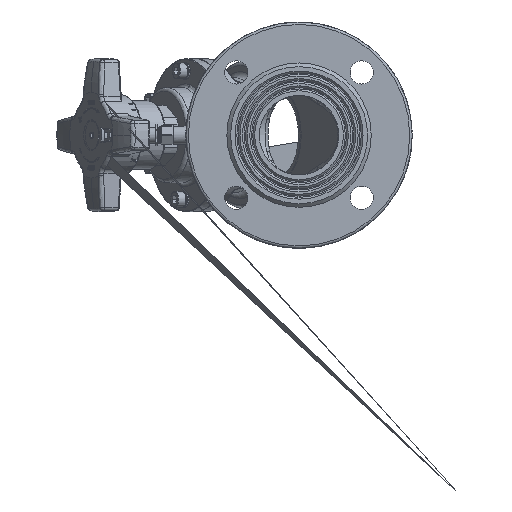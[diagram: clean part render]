
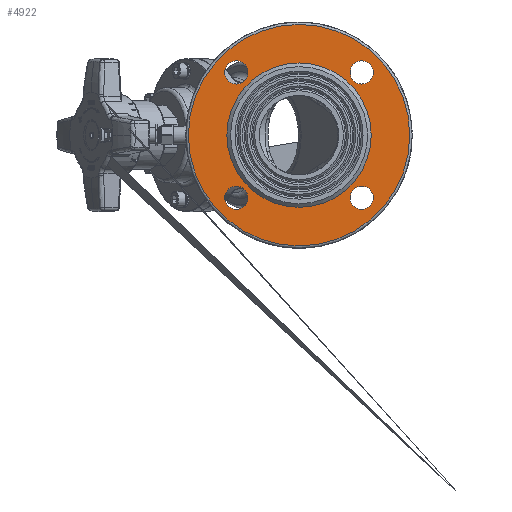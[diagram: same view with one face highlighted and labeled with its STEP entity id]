
A CAD part, left-side view. The second image highlights one B-rep face of the part: STEP entity #4922.
In plain terms, the highlighted planar face has unit normal (-1, 0, 0).
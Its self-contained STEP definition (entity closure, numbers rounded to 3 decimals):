
#4922=ADVANCED_FACE('',(#46346,#46348,#46350,#46352,#46354,#46356),#46358,.T.);
#46346=FACE_BOUND('',#46347,.T.);
#46347=EDGE_LOOP('',(#163829));
#46348=FACE_BOUND('',#46349,.T.);
#46349=EDGE_LOOP('',(#163830));
#46350=FACE_BOUND('',#46351,.T.);
#46351=EDGE_LOOP('',(#163831));
#46352=FACE_BOUND('',#46353,.T.);
#46353=EDGE_LOOP('',(#163832));
#46354=FACE_BOUND('',#46355,.T.);
#46355=EDGE_LOOP('',(#163833));
#46356=FACE_BOUND('',#46357,.T.);
#46357=EDGE_LOOP('',(#163834));
#46358=PLANE('',#46359);
#46359=AXIS2_PLACEMENT_3D('',#46360,#46361,#46362);
#46360=CARTESIAN_POINT('',(391.712,68.463,290.));
#46361=DIRECTION('',(-1.,0.,0.));
#46362=DIRECTION('',(0.,0.,1.));
#163829=ORIENTED_EDGE('',*,*,#173509,.T.);
#163830=ORIENTED_EDGE('',*,*,#173510,.T.);
#163831=ORIENTED_EDGE('',*,*,#173223,.T.);
#163832=ORIENTED_EDGE('',*,*,#173224,.T.);
#163833=ORIENTED_EDGE('',*,*,#173225,.T.);
#163834=ORIENTED_EDGE('',*,*,#173226,.T.);
#173223=EDGE_CURVE('',#179571,#179571,#179572,.T.);
#173224=EDGE_CURVE('',#179573,#179573,#179574,.T.);
#173225=EDGE_CURVE('',#179575,#179575,#179576,.T.);
#173226=EDGE_CURVE('',#179577,#179577,#179578,.T.);
#173509=EDGE_CURVE('',#180098,#180098,#180099,.T.);
#173510=EDGE_CURVE('',#180100,#180100,#180101,.T.);
#179571=VERTEX_POINT('',#211161);
#179572=CIRCLE('',#211162,9.5);
#179573=VERTEX_POINT('',#211166);
#179574=CIRCLE('',#211167,9.5);
#179575=VERTEX_POINT('',#211171);
#179576=CIRCLE('',#211172,9.5);
#179577=VERTEX_POINT('',#211176);
#179578=CIRCLE('',#211177,9.5);
#180098=VERTEX_POINT('',#213418);
#180099=CIRCLE('',#213419,90.5);
#180100=VERTEX_POINT('',#213423);
#180101=CIRCLE('',#213424,59.);
#211161=CARTESIAN_POINT('',(391.712,178.728,331.765));
#211162=AXIS2_PLACEMENT_3D('',#211163,#211164,#211165);
#211163=CARTESIAN_POINT('',(391.712,178.728,341.265));
#211164=DIRECTION('',(1.,0.,0.));
#211165=DIRECTION('',(0.,0.,1.));
#211166=CARTESIAN_POINT('',(391.712,178.728,229.235));
#211167=AXIS2_PLACEMENT_3D('',#211168,#211169,#211170);
#211168=CARTESIAN_POINT('',(391.712,178.728,238.735));
#211169=DIRECTION('',(1.,0.,0.));
#211170=DIRECTION('',(0.,0.,1.));
#211171=CARTESIAN_POINT('',(391.712,76.198,229.235));
#211172=AXIS2_PLACEMENT_3D('',#211173,#211174,#211175);
#211173=CARTESIAN_POINT('',(391.712,76.198,238.735));
#211174=DIRECTION('',(1.,0.,0.));
#211175=DIRECTION('',(0.,0.,1.));
#211176=CARTESIAN_POINT('',(391.712,76.198,331.765));
#211177=AXIS2_PLACEMENT_3D('',#211178,#211179,#211180);
#211178=CARTESIAN_POINT('',(391.712,76.198,341.265));
#211179=DIRECTION('',(1.,0.,0.));
#211180=DIRECTION('',(0.,0.,1.));
#213418=CARTESIAN_POINT('',(391.712,127.463,199.5));
#213419=AXIS2_PLACEMENT_3D('',#213420,#213421,#213422);
#213420=CARTESIAN_POINT('',(391.712,127.463,290.));
#213421=DIRECTION('',(-1.,0.,0.));
#213422=DIRECTION('',(0.,0.,-1.));
#213423=CARTESIAN_POINT('',(391.712,127.463,349.));
#213424=AXIS2_PLACEMENT_3D('',#213425,#213426,#213427);
#213425=CARTESIAN_POINT('',(391.712,127.463,290.));
#213426=DIRECTION('',(1.,0.,0.));
#213427=DIRECTION('',(0.,0.,1.));
